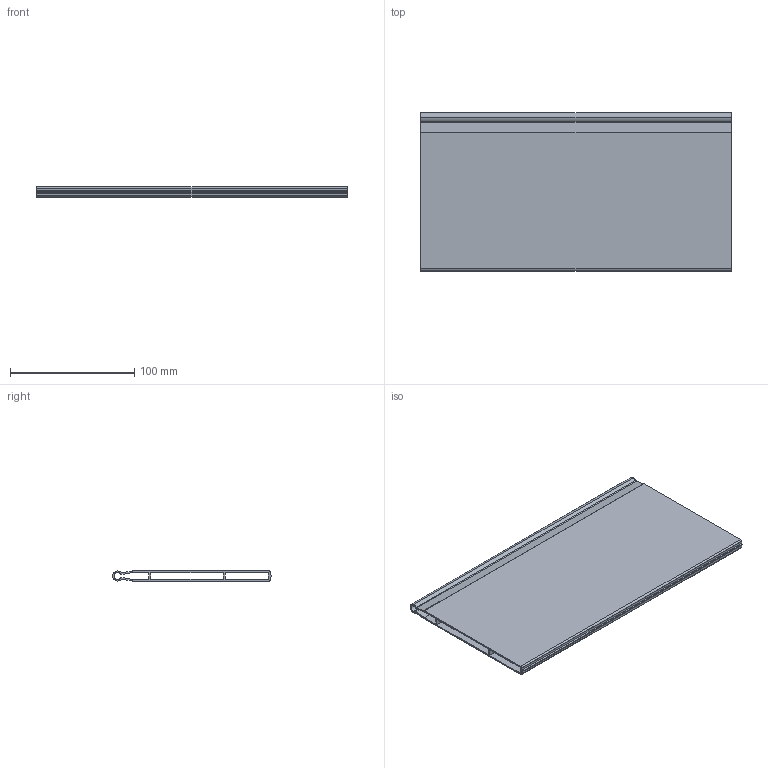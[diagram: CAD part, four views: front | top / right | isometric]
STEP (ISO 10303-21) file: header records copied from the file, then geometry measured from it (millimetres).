
FILE_DESCRIPTION (( 'STEP AP214' ), '1' );
FILE_NAME ('_Magic Optima Unterteilungsprofil DWD XP Agantis_Nova Pro KAB 400.step', '2010-08-17T12:26:43', ( 'grass' ), ( '' ), 'SwSTEP 2.0', 'SolidWorks 2010', '' );
FILE_SCHEMA (( 'AUTOMOTIVE_DESIGN' ));
Length unit declared in the file: millimetre
Products named in the file (1): _Magic Optima Unterteilungsprofil DWD XP Agantis_Nova Pro  KAB 400
Bounding box: 250 x 127.7 x 8.1 mm (x, y, z)
Volume: 87630.8 mm3; surface area: 136250.7 mm2
Topology: 1 solids, 1 shells, 39 faces, 111 edges, 74 vertices
Faces by surface type: plane 22, cylinder 17
Entity records: 1325 total; most frequent: CARTESIAN_POINT 225, DIRECTION 225, ORIENTED_EDGE 222, EDGE_CURVE 111, LINE 77, VECTOR 77, AXIS2_PLACEMENT_3D 74, VERTEX_POINT 74
